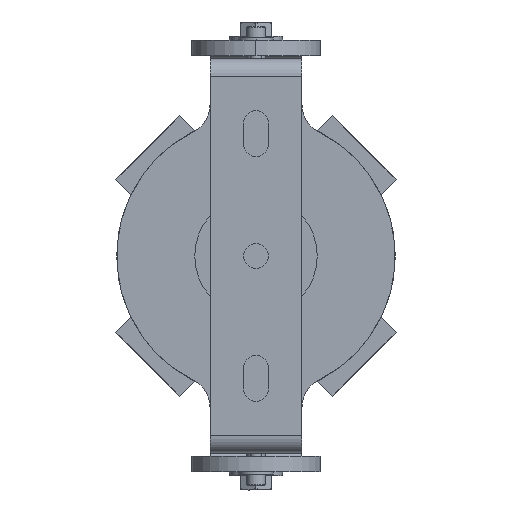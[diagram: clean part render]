
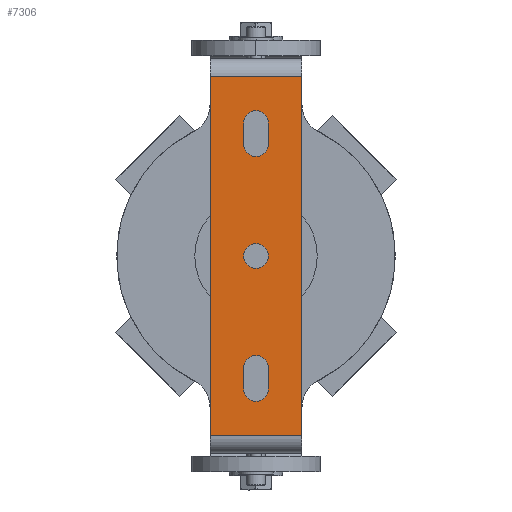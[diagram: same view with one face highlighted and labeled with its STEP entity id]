
A CAD part, front view. The second image highlights one B-rep face of the part: STEP entity #7306.
In plain terms, the highlighted planar face has unit normal (0, -1, 0).
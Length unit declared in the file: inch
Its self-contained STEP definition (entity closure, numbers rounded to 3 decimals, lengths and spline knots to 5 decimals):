
#42 = DIRECTION ( 'NONE',  ( 0., 0., -1. ) ) ;
#67 = EDGE_CURVE ( 'NONE', #947, #10944, #15447, .T. ) ;
#481 = PLANE ( 'NONE',  #3279 ) ;
#519 = DIRECTION ( 'NONE',  ( 0., 0., -1. ) ) ;
#697 = EDGE_CURVE ( 'NONE', #9267, #21578, #8343, .T. ) ;
#775 = LINE ( 'NONE', #11742, #9518 ) ;
#927 = AXIS2_PLACEMENT_3D ( 'NONE', #21466, #10985, #519 ) ;
#947 = VERTEX_POINT ( 'NONE', #20080 ) ;
#982 = ORIENTED_EDGE ( 'NONE', *, *, #20660, .T. ) ;
#994 = CARTESIAN_POINT ( 'NONE',  ( 0., -0.1875, 2.3749 ) ) ;
#1072 = CARTESIAN_POINT ( 'NONE',  ( 0., -0.1875, -2.1719 ) ) ;
#1114 = CIRCLE ( 'NONE', #14649, 0.2031 ) ;
#1129 = DIRECTION ( 'NONE',  ( -1., 0., 0. ) ) ;
#1147 = CARTESIAN_POINT ( 'NONE',  ( 0.75, -0.1875, -2.9375 ) ) ;
#1182 = CARTESIAN_POINT ( 'NONE',  ( -0.75, -0.1875, 2.9375 ) ) ;
#1279 = VERTEX_POINT ( 'NONE', #5343 ) ;
#1348 = EDGE_CURVE ( 'NONE', #16727, #6369, #7781, .T. ) ;
#1509 = VECTOR ( 'NONE', #19626, 39.37008 ) ;
#1543 = CARTESIAN_POINT ( 'NONE',  ( 0., -0.1875, 0. ) ) ;
#1562 = EDGE_LOOP ( 'NONE', ( #12751, #7450, #18611, #18828, #22460 ) ) ;
#1870 = CARTESIAN_POINT ( 'NONE',  ( 0., -0.1875, -1.8281 ) ) ;
#2776 = DIRECTION ( 'NONE',  ( 0., 0., -1. ) ) ;
#2831 = DIRECTION ( 'NONE',  ( 0., 0., 1. ) ) ;
#3020 = CARTESIAN_POINT ( 'NONE',  ( 0., -0.1875, -2.9375 ) ) ;
#3077 = AXIS2_PLACEMENT_3D ( 'NONE', #1072, #13292, #2831 ) ;
#3266 = CIRCLE ( 'NONE', #927, 0.203 ) ;
#3279 = AXIS2_PLACEMENT_3D ( 'NONE', #15852, #5782, #17983 ) ;
#3310 = DIRECTION ( 'NONE',  ( 0., 0., 1. ) ) ;
#3350 = EDGE_CURVE ( 'NONE', #13555, #1279, #15079, .T. ) ;
#3360 = EDGE_CURVE ( 'NONE', #14084, #11327, #8802, .T. ) ;
#3474 = CARTESIAN_POINT ( 'NONE',  ( -0.203, -0.1875, 2.1719 ) ) ;
#3485 = EDGE_CURVE ( 'NONE', #10944, #16776, #7719, .T. ) ;
#3629 = DIRECTION ( 'NONE',  ( 0., 0., 1. ) ) ;
#3659 = ORIENTED_EDGE ( 'NONE', *, *, #3360, .T. ) ;
#3741 = CIRCLE ( 'NONE', #7440, 0.203 ) ;
#3880 = CARTESIAN_POINT ( 'NONE',  ( 0.203, -0.1875, 2.1719 ) ) ;
#3932 = CARTESIAN_POINT ( 'NONE',  ( 0.203, -0.1875, -2.1719 ) ) ;
#4017 = EDGE_CURVE ( 'NONE', #6369, #16727, #1114, .T. ) ;
#4221 = VECTOR ( 'NONE', #1129, 39.37008 ) ;
#4414 = ORIENTED_EDGE ( 'NONE', *, *, #697, .T. ) ;
#4981 = EDGE_CURVE ( 'NONE', #16776, #8902, #10653, .T. ) ;
#5051 = EDGE_CURVE ( 'NONE', #17533, #13555, #10108, .T. ) ;
#5100 = CARTESIAN_POINT ( 'NONE',  ( 0., -0.1875, 2.1719 ) ) ;
#5343 = CARTESIAN_POINT ( 'NONE',  ( -0.75, -0.1875, -2.9375 ) ) ;
#5782 = DIRECTION ( 'NONE',  ( 0., 1., 0. ) ) ;
#6369 = VERTEX_POINT ( 'NONE', #15187 ) ;
#6402 = CARTESIAN_POINT ( 'NONE',  ( 0., -0.1875, 2.9375 ) ) ;
#6548 = CARTESIAN_POINT ( 'NONE',  ( -0.203, -0.1875, 2.1719 ) ) ;
#6780 = FACE_BOUND ( 'NONE', #19015, .T. ) ;
#6861 = DIRECTION ( 'NONE',  ( 0., 0., -1. ) ) ;
#7136 = CARTESIAN_POINT ( 'NONE',  ( -0.203, -0.1875, -2.1719 ) ) ;
#7154 = ORIENTED_EDGE ( 'NONE', *, *, #3350, .F. ) ;
#7306 = ADVANCED_FACE ( 'NONE', ( #10310, #20152, #6780, #14946 ), #481, .F. ) ;
#7440 = AXIS2_PLACEMENT_3D ( 'NONE', #5100, #17311, #6861 ) ;
#7450 = ORIENTED_EDGE ( 'NONE', *, *, #13539, .T. ) ;
#7719 = CIRCLE ( 'NONE', #10402, 0.203 ) ;
#7781 = CIRCLE ( 'NONE', #9498, 0.2031 ) ;
#7934 = CARTESIAN_POINT ( 'NONE',  ( 0.75, -0.1875, 2.9375 ) ) ;
#8264 = VECTOR ( 'NONE', #13552, 39.37008 ) ;
#8343 = CIRCLE ( 'NONE', #11541, 0.203 ) ;
#8521 = CARTESIAN_POINT ( 'NONE',  ( 0., -0.1875, -1.8281 ) ) ;
#8802 = LINE ( 'NONE', #6548, #17544 ) ;
#8902 = VERTEX_POINT ( 'NONE', #12955 ) ;
#8964 = CARTESIAN_POINT ( 'NONE',  ( -0.203, -0.1875, -1.8281 ) ) ;
#9011 = EDGE_CURVE ( 'NONE', #8902, #18572, #15479, .T. ) ;
#9267 = VERTEX_POINT ( 'NONE', #994 ) ;
#9498 = AXIS2_PLACEMENT_3D ( 'NONE', #22535, #13880, #12131 ) ;
#9518 = VECTOR ( 'NONE', #13488, 39.37008 ) ;
#9946 = ORIENTED_EDGE ( 'NONE', *, *, #4017, .T. ) ;
#10085 = DIRECTION ( 'NONE',  ( 0., 0., -1. ) ) ;
#10108 = LINE ( 'NONE', #10430, #13656 ) ;
#10240 = EDGE_CURVE ( 'NONE', #11327, #9267, #3741, .T. ) ;
#10272 = DIRECTION ( 'NONE',  ( 0., 0., 1. ) ) ;
#10310 = FACE_BOUND ( 'NONE', #1562, .T. ) ;
#10402 = AXIS2_PLACEMENT_3D ( 'NONE', #1870, #14086, #3629 ) ;
#10430 = CARTESIAN_POINT ( 'NONE',  ( 0.75, -0.1875, -4.26593 ) ) ;
#10485 = CARTESIAN_POINT ( 'NONE',  ( 0., -0.1875, -0.2031 ) ) ;
#10653 = CIRCLE ( 'NONE', #19210, 0.203 ) ;
#10944 = VERTEX_POINT ( 'NONE', #8964 ) ;
#10985 = DIRECTION ( 'NONE',  ( 0., 1., 0. ) ) ;
#11164 = VERTEX_POINT ( 'NONE', #22206 ) ;
#11327 = VERTEX_POINT ( 'NONE', #3474 ) ;
#11445 = CARTESIAN_POINT ( 'NONE',  ( -0.203, -0.1875, 1.8281 ) ) ;
#11541 = AXIS2_PLACEMENT_3D ( 'NONE', #21164, #18336, #42 ) ;
#11742 = CARTESIAN_POINT ( 'NONE',  ( -0.75, -0.1875, 4.26593 ) ) ;
#11800 = DIRECTION ( 'NONE',  ( 0., 0., 1. ) ) ;
#11995 = EDGE_LOOP ( 'NONE', ( #20740, #19853, #14543, #7154 ) ) ;
#12131 = DIRECTION ( 'NONE',  ( 0., 0., 1. ) ) ;
#12143 = ORIENTED_EDGE ( 'NONE', *, *, #10240, .T. ) ;
#12258 = EDGE_CURVE ( 'NONE', #17533, #16025, #13500, .T. ) ;
#12672 = CIRCLE ( 'NONE', #3077, 0.203 ) ;
#12751 = ORIENTED_EDGE ( 'NONE', *, *, #9011, .T. ) ;
#12955 = CARTESIAN_POINT ( 'NONE',  ( 0.203, -0.1875, -1.8281 ) ) ;
#13292 = DIRECTION ( 'NONE',  ( 0., 1., 0. ) ) ;
#13488 = DIRECTION ( 'NONE',  ( 0., 0., 1. ) ) ;
#13500 = LINE ( 'NONE', #6402, #4221 ) ;
#13539 = EDGE_CURVE ( 'NONE', #18572, #947, #12672, .T. ) ;
#13552 = DIRECTION ( 'NONE',  ( -1., 0., 0. ) ) ;
#13555 = VERTEX_POINT ( 'NONE', #1147 ) ;
#13656 = VECTOR ( 'NONE', #19140, 39.37008 ) ;
#13763 = DIRECTION ( 'NONE',  ( 0., 1., 0. ) ) ;
#13880 = DIRECTION ( 'NONE',  ( 0., 1., 0. ) ) ;
#14084 = VERTEX_POINT ( 'NONE', #11445 ) ;
#14086 = DIRECTION ( 'NONE',  ( 0., 1., 0. ) ) ;
#14543 = ORIENTED_EDGE ( 'NONE', *, *, #19143, .F. ) ;
#14649 = AXIS2_PLACEMENT_3D ( 'NONE', #1543, #13763, #3310 ) ;
#14735 = ORIENTED_EDGE ( 'NONE', *, *, #1348, .T. ) ;
#14946 = FACE_OUTER_BOUND ( 'NONE', #11995, .T. ) ;
#15053 = CARTESIAN_POINT ( 'NONE',  ( 0.203, -0.1875, 2.1719 ) ) ;
#15079 = LINE ( 'NONE', #3020, #8264 ) ;
#15187 = CARTESIAN_POINT ( 'NONE',  ( 0., -0.1875, 0.2031 ) ) ;
#15447 = LINE ( 'NONE', #7136, #1509 ) ;
#15479 = LINE ( 'NONE', #3932, #17947 ) ;
#15605 = EDGE_LOOP ( 'NONE', ( #3659, #12143, #4414, #982, #20695 ) ) ;
#15760 = CARTESIAN_POINT ( 'NONE',  ( 0., -0.1875, -1.6251 ) ) ;
#15852 = CARTESIAN_POINT ( 'NONE',  ( 0., -0.1875, 4.96593 ) ) ;
#16025 = VERTEX_POINT ( 'NONE', #1182 ) ;
#16727 = VERTEX_POINT ( 'NONE', #10485 ) ;
#16776 = VERTEX_POINT ( 'NONE', #15760 ) ;
#17124 = VECTOR ( 'NONE', #10085, 39.37008 ) ;
#17311 = DIRECTION ( 'NONE',  ( 0., 1., 0. ) ) ;
#17463 = EDGE_CURVE ( 'NONE', #11164, #14084, #3266, .T. ) ;
#17533 = VERTEX_POINT ( 'NONE', #7934 ) ;
#17544 = VECTOR ( 'NONE', #11800, 39.37008 ) ;
#17674 = LINE ( 'NONE', #15053, #17124 ) ;
#17947 = VECTOR ( 'NONE', #2776, 39.37008 ) ;
#17983 = DIRECTION ( 'NONE',  ( 0., 0., 1. ) ) ;
#18336 = DIRECTION ( 'NONE',  ( 0., 1., 0. ) ) ;
#18572 = VERTEX_POINT ( 'NONE', #22005 ) ;
#18611 = ORIENTED_EDGE ( 'NONE', *, *, #67, .T. ) ;
#18828 = ORIENTED_EDGE ( 'NONE', *, *, #3485, .T. ) ;
#19015 = EDGE_LOOP ( 'NONE', ( #9946, #14735 ) ) ;
#19140 = DIRECTION ( 'NONE',  ( 0., 0., -1. ) ) ;
#19143 = EDGE_CURVE ( 'NONE', #1279, #16025, #775, .T. ) ;
#19210 = AXIS2_PLACEMENT_3D ( 'NONE', #8521, #20751, #10272 ) ;
#19626 = DIRECTION ( 'NONE',  ( 0., 0., 1. ) ) ;
#19853 = ORIENTED_EDGE ( 'NONE', *, *, #12258, .T. ) ;
#20080 = CARTESIAN_POINT ( 'NONE',  ( -0.203, -0.1875, -2.1719 ) ) ;
#20152 = FACE_BOUND ( 'NONE', #15605, .T. ) ;
#20660 = EDGE_CURVE ( 'NONE', #21578, #11164, #17674, .T. ) ;
#20695 = ORIENTED_EDGE ( 'NONE', *, *, #17463, .T. ) ;
#20740 = ORIENTED_EDGE ( 'NONE', *, *, #5051, .F. ) ;
#20751 = DIRECTION ( 'NONE',  ( 0., 1., 0. ) ) ;
#21164 = CARTESIAN_POINT ( 'NONE',  ( 0., -0.1875, 2.1719 ) ) ;
#21466 = CARTESIAN_POINT ( 'NONE',  ( 0., -0.1875, 1.8281 ) ) ;
#21578 = VERTEX_POINT ( 'NONE', #3880 ) ;
#22005 = CARTESIAN_POINT ( 'NONE',  ( 0.203, -0.1875, -2.1719 ) ) ;
#22206 = CARTESIAN_POINT ( 'NONE',  ( 0.203, -0.1875, 1.8281 ) ) ;
#22460 = ORIENTED_EDGE ( 'NONE', *, *, #4981, .T. ) ;
#22535 = CARTESIAN_POINT ( 'NONE',  ( 0., -0.1875, 0. ) ) ;
